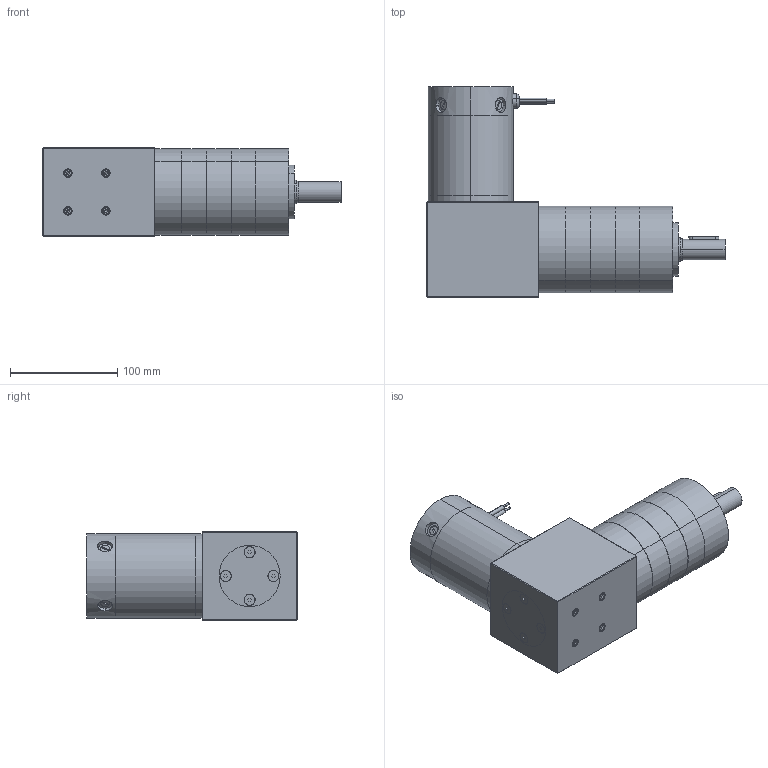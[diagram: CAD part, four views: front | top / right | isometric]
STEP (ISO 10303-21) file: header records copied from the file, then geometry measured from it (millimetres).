
FILE_DESCRIPTION (( 'STEP AP203' ), '1' );
FILE_NAME ('d33455bgra4.step', '2018-12-07T19:38:47', ( '' ), ( '' ), 'SwSTEP 2.0', 'SolidWorks 2017', '' );
FILE_SCHEMA (( 'CONFIG_CONTROL_DESIGN' ));
Length unit declared in the file: inch
Products named in the file (1): d33455bgra4
Bounding box: 278.98 x 196.51 x 82.55 mm (x, y, z)
Volume: 1961766.7 mm3; surface area: 216000 mm2
Topology: 27 solids, 27 shells, 1116 faces, 2815 edges, 1802 vertices
Faces by surface type: cylinder 695, plane 294, cone 101, torus 14, bspline 8, sphere 4
Entity records: 52797 total; most frequent: CARTESIAN_POINT 28604, ORIENTED_EDGE 5582, DIRECTION 4544, EDGE_CURVE 2791, VERTEX_POINT 1802, AXIS2_PLACEMENT_3D 1674, EDGE_LOOP 1221, LINE 1196
